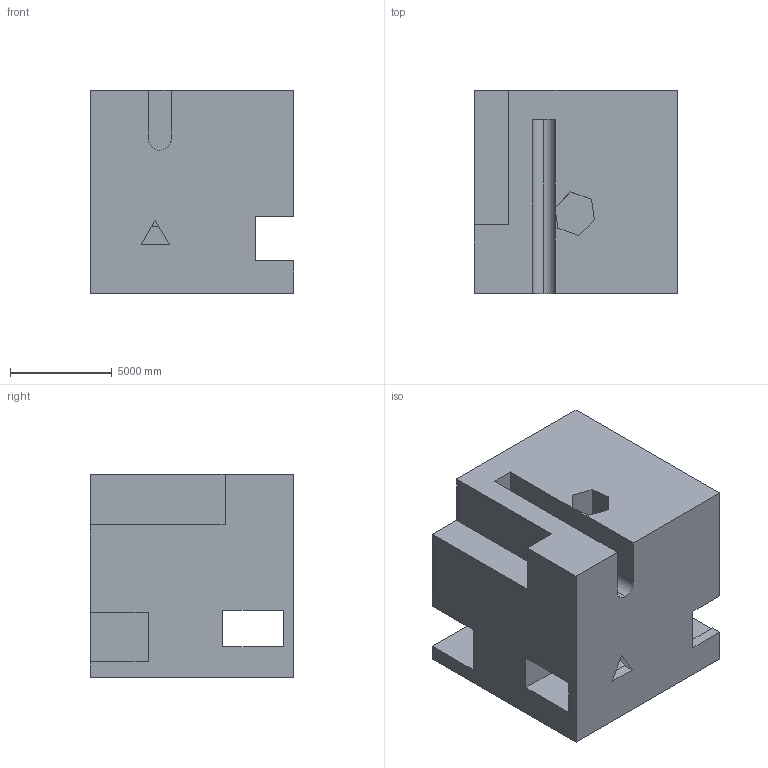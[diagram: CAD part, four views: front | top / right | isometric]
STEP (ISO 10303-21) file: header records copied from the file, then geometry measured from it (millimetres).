
FILE_DESCRIPTION (( 'STEP AP203' ), '1' );
FILE_NAME ('324.STEP', '2022-09-07T12:52:51', ( 'user' ), ( '' ), 'SwSTEP 2.0', 'SolidWorks 2021', '' );
FILE_SCHEMA (( 'CONFIG_CONTROL_DESIGN' ));
Length unit declared in the file: centimetre
Products named in the file (1): 324
Bounding box: 10000 x 10000 x 10000 mm (x, y, z)
Volume: 807254692902.2 mm3; surface area: 799616147.4 mm2
Topology: 1 solids, 1 shells, 39 faces, 117 edges, 78 vertices
Faces by surface type: plane 37, cylinder 2
Entity records: 1380 total; most frequent: CARTESIAN_POINT 241, ORIENTED_EDGE 234, DIRECTION 199, EDGE_CURVE 117, LINE 111, VECTOR 111, VERTEX_POINT 78, AXIS2_PLACEMENT_3D 44
